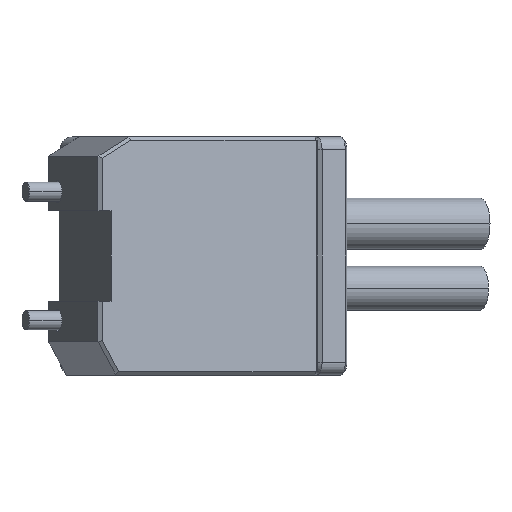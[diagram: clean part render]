
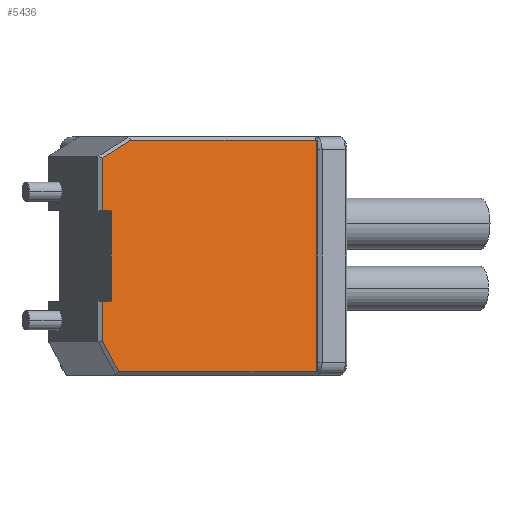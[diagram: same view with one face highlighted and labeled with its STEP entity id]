
A CAD part, front view. The second image highlights one B-rep face of the part: STEP entity #5436.
In plain terms, the highlighted planar face has unit normal (0.383, -0.924, 0).
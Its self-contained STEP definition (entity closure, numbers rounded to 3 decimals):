
#371 = ORIENTED_EDGE ( 'NONE', *, *, #8700, .T. ) ;
#388 = CARTESIAN_POINT ( 'NONE',  ( 113.169, 105.672, 165.584 ) ) ;
#491 = DIRECTION ( 'NONE',  ( 0., 0., 1. ) ) ;
#503 = EDGE_CURVE ( 'NONE', #5845, #6316, #9539, .T. ) ;
#647 = DIRECTION ( 'NONE',  ( 0., 0., -1. ) ) ;
#681 = CARTESIAN_POINT ( 'NONE',  ( 113.169, 105.672, 183.584 ) ) ;
#831 = DIRECTION ( 'NONE',  ( 0.383, -0.924, 0. ) ) ;
#846 = CARTESIAN_POINT ( 'NONE',  ( 84.376, 93.732, 183.584 ) ) ;
#874 = DIRECTION ( 'NONE',  ( -0.924, -0.383, 0. ) ) ;
#1168 = EDGE_CURVE ( 'NONE', #6405, #4193, #5553, .T. ) ;
#1254 = ORIENTED_EDGE ( 'NONE', *, *, #1168, .T. ) ;
#1545 = EDGE_CURVE ( 'NONE', #4193, #6909, #6836, .T. ) ;
#1629 = DIRECTION ( 'NONE',  ( -0.8, -0.332, -0.5 ) ) ;
#1651 = CARTESIAN_POINT ( 'NONE',  ( 81.3, 92.457, 158.584 ) ) ;
#1667 = VECTOR ( 'NONE', #647, 1000. ) ;
#1687 = CARTESIAN_POINT ( 'NONE',  ( 79.915, 91.882, 158.584 ) ) ;
#1883 = VERTEX_POINT ( 'NONE', #9619 ) ;
#1909 = VERTEX_POINT ( 'NONE', #3081 ) ;
#2119 = DIRECTION ( 'NONE',  ( -0.924, -0.383, 0. ) ) ;
#2258 = DIRECTION ( 'NONE',  ( 0., 0., -1. ) ) ;
#2283 = EDGE_CURVE ( 'NONE', #6909, #3273, #10138, .T. ) ;
#2363 = EDGE_CURVE ( 'NONE', #1883, #3776, #7831, .T. ) ;
#2502 = DIRECTION ( 'NONE',  ( 0.924, 0.383, 0. ) ) ;
#2507 = EDGE_CURVE ( 'NONE', #6316, #1883, #9998, .T. ) ;
#2511 = ORIENTED_EDGE ( 'NONE', *, *, #8958, .T. ) ;
#3081 = CARTESIAN_POINT ( 'NONE',  ( 79.915, 91.882, 152.414 ) ) ;
#3245 = CARTESIAN_POINT ( 'NONE',  ( 79.915, 91.882, 165.584 ) ) ;
#3273 = VERTEX_POINT ( 'NONE', #846 ) ;
#3561 = ORIENTED_EDGE ( 'NONE', *, *, #1545, .T. ) ;
#3590 = EDGE_LOOP ( 'NONE', ( #6493, #7909, #9970, #4877, #2511, #1254, #3561, #7923, #371, #9848 ) ) ;
#3776 = VERTEX_POINT ( 'NONE', #7326 ) ;
#4193 = VERTEX_POINT ( 'NONE', #7131 ) ;
#4537 = CARTESIAN_POINT ( 'NONE',  ( 113.631, 105.864, 183.584 ) ) ;
#4760 = FACE_OUTER_BOUND ( 'NONE', #3590, .T. ) ;
#4843 = DIRECTION ( 'NONE',  ( 0.924, 0.383, 0. ) ) ;
#4877 = ORIENTED_EDGE ( 'NONE', *, *, #9564, .T. ) ;
#4888 = CARTESIAN_POINT ( 'NONE',  ( 113.631, 105.864, 147.584 ) ) ;
#5084 = LINE ( 'NONE', #6576, #8401 ) ;
#5326 = VECTOR ( 'NONE', #5430, 1000. ) ;
#5430 = DIRECTION ( 'NONE',  ( 0., 0., -1. ) ) ;
#5436 = ADVANCED_FACE ( 'NONE', ( #4760 ), #6652, .T. ) ;
#5553 = LINE ( 'NONE', #4888, #5680 ) ;
#5590 = CARTESIAN_POINT ( 'NONE',  ( 79.915, 91.882, 180.795 ) ) ;
#5622 = LINE ( 'NONE', #1651, #9969 ) ;
#5680 = VECTOR ( 'NONE', #4843, 1000. ) ;
#5806 = CARTESIAN_POINT ( 'NONE',  ( 113.631, 105.864, 165.584 ) ) ;
#5845 = VERTEX_POINT ( 'NONE', #5590 ) ;
#6277 = CARTESIAN_POINT ( 'NONE',  ( 79.915, 91.882, 165.584 ) ) ;
#6316 = VERTEX_POINT ( 'NONE', #7181 ) ;
#6405 = VERTEX_POINT ( 'NONE', #9036 ) ;
#6493 = ORIENTED_EDGE ( 'NONE', *, *, #2507, .T. ) ;
#6576 = CARTESIAN_POINT ( 'NONE',  ( 84.376, 93.732, 183.584 ) ) ;
#6652 = PLANE ( 'NONE',  #8232 ) ;
#6836 = LINE ( 'NONE', #388, #9621 ) ;
#6909 = VERTEX_POINT ( 'NONE', #681 ) ;
#7117 = LINE ( 'NONE', #3245, #5326 ) ;
#7131 = CARTESIAN_POINT ( 'NONE',  ( 113.169, 105.672, 147.584 ) ) ;
#7181 = CARTESIAN_POINT ( 'NONE',  ( 79.915, 91.882, 172.584 ) ) ;
#7326 = CARTESIAN_POINT ( 'NONE',  ( 81.3, 92.457, 158.584 ) ) ;
#7340 = CARTESIAN_POINT ( 'NONE',  ( 79.915, 91.882, 172.584 ) ) ;
#7458 = EDGE_CURVE ( 'NONE', #3776, #7576, #5622, .T. ) ;
#7576 = VERTEX_POINT ( 'NONE', #1687 ) ;
#7655 = CARTESIAN_POINT ( 'NONE',  ( 79.915, 91.882, 152.414 ) ) ;
#7831 = LINE ( 'NONE', #8857, #1667 ) ;
#7909 = ORIENTED_EDGE ( 'NONE', *, *, #2363, .T. ) ;
#7923 = ORIENTED_EDGE ( 'NONE', *, *, #2283, .T. ) ;
#7968 = VECTOR ( 'NONE', #2119, 1000. ) ;
#8232 = AXIS2_PLACEMENT_3D ( 'NONE', #5806, #831, #2502 ) ;
#8401 = VECTOR ( 'NONE', #1629, 1000. ) ;
#8505 = DIRECTION ( 'NONE',  ( 0.462, 0.192, -0.866 ) ) ;
#8700 = EDGE_CURVE ( 'NONE', #3273, #5845, #5084, .T. ) ;
#8791 = VECTOR ( 'NONE', #8505, 1000. ) ;
#8857 = CARTESIAN_POINT ( 'NONE',  ( 81.3, 92.457, 165.584 ) ) ;
#8958 = EDGE_CURVE ( 'NONE', #1909, #6405, #9562, .T. ) ;
#9010 = DIRECTION ( 'NONE',  ( 0.924, 0.383, 0. ) ) ;
#9036 = CARTESIAN_POINT ( 'NONE',  ( 82.491, 92.951, 147.584 ) ) ;
#9410 = VECTOR ( 'NONE', #2258, 1000. ) ;
#9539 = LINE ( 'NONE', #6277, #9410 ) ;
#9562 = LINE ( 'NONE', #7655, #8791 ) ;
#9564 = EDGE_CURVE ( 'NONE', #7576, #1909, #7117, .T. ) ;
#9619 = CARTESIAN_POINT ( 'NONE',  ( 81.3, 92.457, 172.584 ) ) ;
#9621 = VECTOR ( 'NONE', #491, 1000. ) ;
#9848 = ORIENTED_EDGE ( 'NONE', *, *, #503, .T. ) ;
#9969 = VECTOR ( 'NONE', #874, 1000. ) ;
#9970 = ORIENTED_EDGE ( 'NONE', *, *, #7458, .T. ) ;
#9998 = LINE ( 'NONE', #7340, #10497 ) ;
#10138 = LINE ( 'NONE', #4537, #7968 ) ;
#10497 = VECTOR ( 'NONE', #9010, 1000. ) ;
